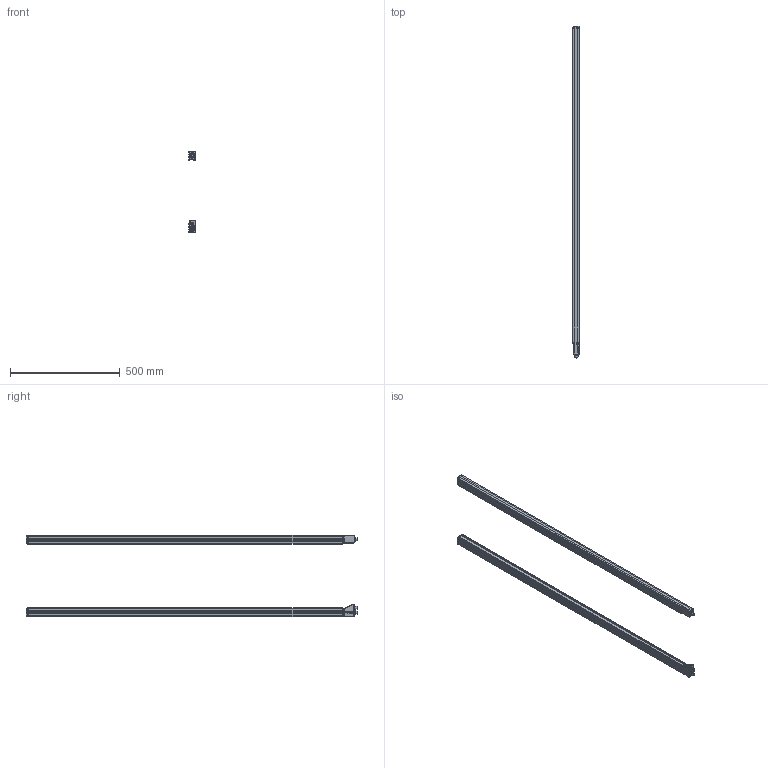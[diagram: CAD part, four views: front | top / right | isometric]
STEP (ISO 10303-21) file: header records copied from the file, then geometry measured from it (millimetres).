
FILE_DESCRIPTION(/* description */ (''),/* implementation_level */ '2;1');
FILE_NAME(/* name */ '3DCAD_CML700_1440_A_EX.stp',/* time_stamp */ '2016-10-19T13:01:42+02:00',/* author */ ('CC2'),/* organization */ ('Leuze electronic'),/* preprocessor_version */ 'ST-DEVELOPER v15',/* originating_system */ 'SIEMENS PLM Software NX 8.5',/* authorisation */ '');
FILE_SCHEMA (('CONFIG_CONTROL_DESIGN'));
Length unit declared in the file: millimetre
Products named in the file (1): 19-102480_00
Bounding box: 30.65 x 1515.3 x 370.4 mm (x, y, z)
Volume: 2962073.4 mm3; surface area: 566075.7 mm2
Topology: 21 solids, 21 shells, 1213 faces, 3211 edges, 2085 vertices
Faces by surface type: plane 567, cylinder 410, bspline 143, cone 43, torus 36, sphere 14
Full cylindrical faces by diameter (mm): 2 x2, 3.3 x1, 3.7 x4, 3.9 x1, 4 x4, 4.2 x1, 4.65 x4, 5.55 x4, 6 x2, 7 x3, 10.11 x1, 12 x2, 13.98 x1, 15.6 x1, 18 x2, 22.5 x1
Entity records: 41256 total; most frequent: CARTESIAN_POINT 11598, ORIENTED_EDGE 6260, DIRECTION 5942, EDGE_CURVE 3130, AXIS2_PLACEMENT_3D 2075, VERTEX_POINT 2074, LINE 1792, VECTOR 1792
